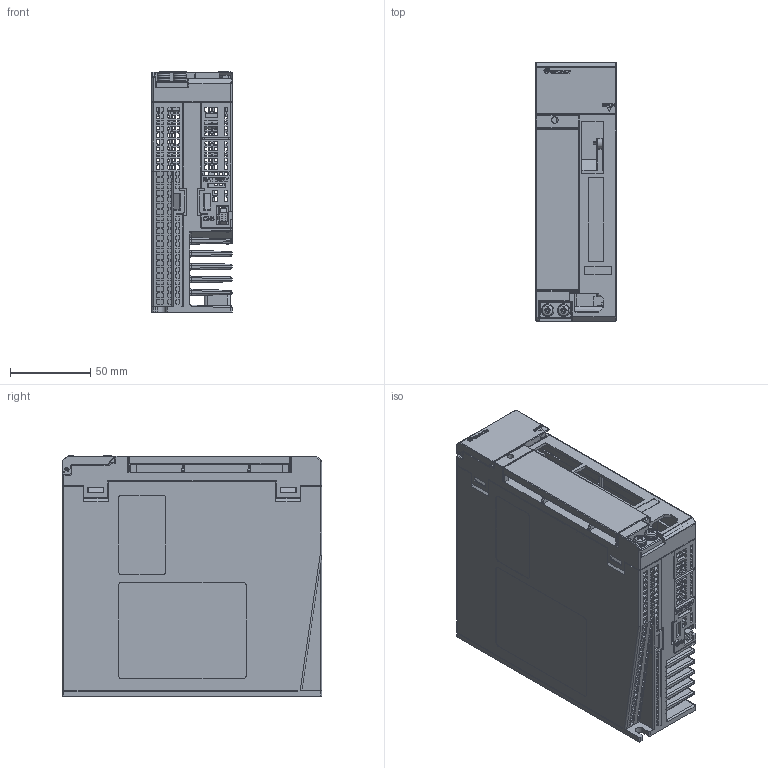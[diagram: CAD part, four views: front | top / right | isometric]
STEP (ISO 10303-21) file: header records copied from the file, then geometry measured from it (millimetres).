
FILE_DESCRIPTION((''),'2;1');
FILE_NAME('C:\Documents and Settings\11254\桌面\SDE\SDE_A.stp','2016-10-12T10:53:09',('11254'),(''),'Autodesk Inventor 2008','Autodesk Inventor 2008','');
FILE_SCHEMA(('AUTOMOTIVE_DESIGN { 1 0 10303 214 1 1 1 1 }'));
Length unit declared in the file: millimetre
Products named in the file (1): SDE_A_OK_1
Bounding box: 50 x 162 x 150.2 mm (x, y, z)
Volume: 258232.8 mm3; surface area: 216271 mm2
Topology: 1 solids, 1 shells, 4613 faces, 12969 edges, 8383 vertices
Faces by surface type: plane 3345, cylinder 1040, sphere 96, bspline 61, cone 40, torus 31
Full cylindrical faces by diameter (mm): 2 x4, 2.2 x3, 3 x14, 3.621 x2, 4 x8, 4.3 x2, 5 x1, 5.5 x1, 6 x1, 8 x2
Entity records: 149509 total; most frequent: CARTESIAN_POINT 28705, ORIENTED_EDGE 25658, DIRECTION 24052, EDGE_CURVE 12829, VECTOR 10464, LINE 10464, VERTEX_POINT 8360, AXIS2_PLACEMENT_3D 6794
